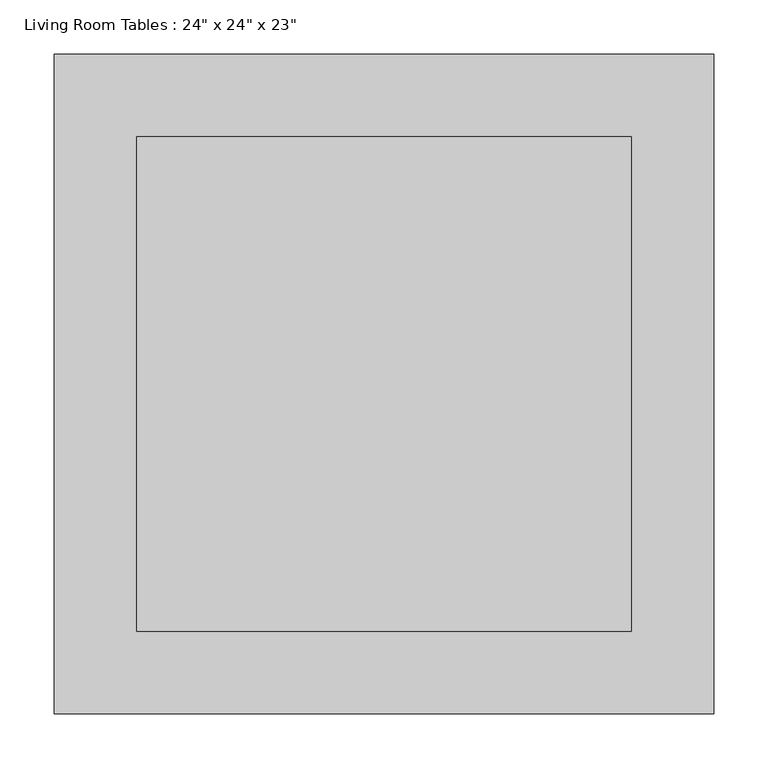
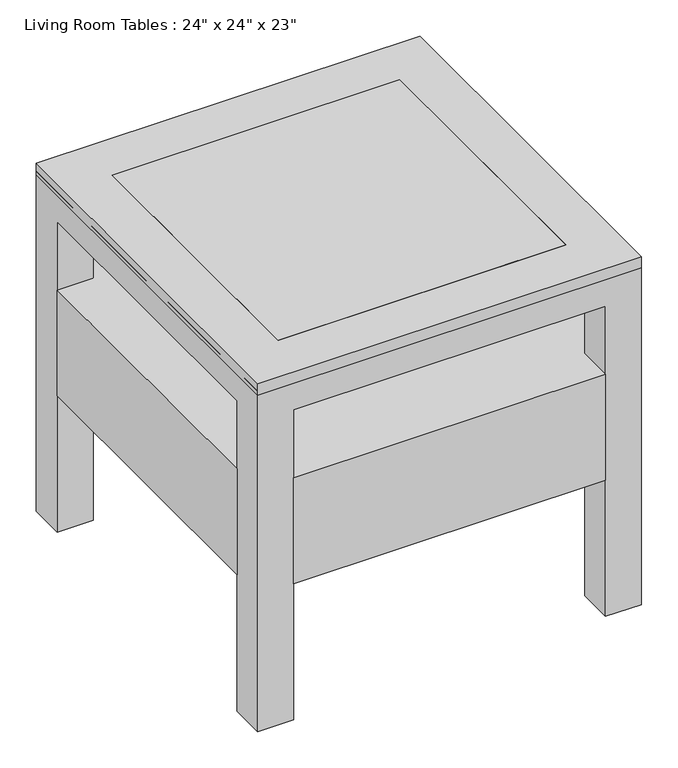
"""IFC4 building model written with IfcOpenShell, lengths in millimetres: furniture geometry."""

from ifc_helpers import new_model, si_unit, frame, origin, place, context, project, spatial, polyline, outline, extrude, faceted_brep, source, transform, mapped, element, save


def furniture_79813b58(model_context):
    return source(origin(), model_context, "Body", "SolidModel", [
        extrude(outline(polyline([(265.9157667, 400.0110778), (265.9157667, 342.8610778), (323.0657667, 342.8610778), (323.0657667, -152.4389222), (265.9157667, -152.4389222), (265.9157667, -209.5889222), (-229.3842333, -209.5889222), (-229.3842333, -152.4389222), (-286.5342333, -152.4389222), (-286.5342333, 342.8610778), (-229.3842333, 342.8610778), (-229.3842333, 400.0110778), (265.9157667, 400.0110778)])), frame((0.0, 0.0, 228.6), z_axis=(0.0, 0.0, 1.0), x_axis=(1.0, 0.0, 0.0)), (0.0, 0.0, 1.0), 177.8),
        extrude(outline(polyline([(246.8657667, 323.8110778), (246.8657667, -133.3889222), (-210.3342333, -133.3889222), (-210.3342333, 323.8110778), (246.8657667, 323.8110778)])), frame((0.0, 0.0, 571.5), z_axis=(0.0, 0.0, 1.0), x_axis=(1.0, 0.0, 0.0)), (0.0, 0.0, 1.0), 12.7),
        extrude(outline(polyline([(323.0657667, 400.0110778), (323.0657667, -209.5889222), (-286.5342333, -209.5889222), (-286.5342333, 400.0110778), (323.0657667, 400.0110778)]), holes=[polyline([(246.8657667, 323.8110778), (-210.3342333, 323.8110778), (-210.3342333, -133.3889222), (246.8657667, -133.3889222), (246.8657667, 323.8110778)])]), frame((0.0, 0.0, 565.15), z_axis=(0.0, 0.0, 1.0), x_axis=(1.0, 0.0, 0.0)), (0.0, 0.0, 1.0), 19.05),
        faceted_brep([(-286.5342333, 400.0110778, 571.5), (-286.5342333, -209.5889222, 571.5), (323.0657667, -209.5889222, 571.5), (323.0657667, 400.0110778, 571.5), (-273.8342333, 342.8610778, 571.5), (-229.3842333, 342.8610778, 571.5), (-229.3842333, 387.3110778, 571.5), (265.9157667, 387.3110778, 571.5), (265.9157667, 342.8610778, 571.5), (310.3657667, 342.8610778, 571.5), (310.3657667, -152.4389222, 571.5), (265.9157667, -152.4389222, 571.5), (265.9157667, -196.8889222, 571.5), (-229.3842333, -196.8889222, 571.5), (-229.3842333, -152.4389222, 571.5), (-273.8342333, -152.4389222, 571.5), (-286.5342333, -152.4389222, 520.7), (-286.5342333, 342.8610778, 520.7), (-273.8342333, 342.8610778, 520.7), (-273.8342333, -152.4389222, 520.7), (-229.3842333, -209.5889222, 520.7), (-229.3842333, -196.8889222, 520.7), (265.9157667, -196.8889222, 520.7), (265.9157667, -209.5889222, 520.7), (-229.3842333, 387.3110778, 520.7), (-229.3842333, 400.0110778, 520.7), (265.9157667, 400.0110778, 520.7), (265.9157667, 387.3110778, 520.7), (323.0657667, 342.8610778, 520.7), (323.0657667, -152.4389222, 520.7), (310.3657667, -152.4389222, 520.7), (310.3657667, 342.8610778, 520.7), (323.0657667, 400.0110778, 0.0), (265.9157667, 400.0110778, 0.0), (-229.3842333, 400.0110778, 0.0), (-286.5342333, 400.0110778, 0.0), (-286.5342333, 342.8610778, 0.0), (-286.5342333, -152.4389222, 0.0), (-286.5342333, -209.5889222, 0.0), (-229.3842333, -209.5889222, 0.0), (265.9157667, -209.5889222, 0.0), (323.0657667, -209.5889222, 0.0), (323.0657667, -152.4389222, 0.0), (323.0657667, 342.8610778, 0.0), (-229.3842333, 342.8610778, 0.0), (-229.3842333, -152.4389222, 0.0), (265.9157667, 342.8610778, 0.0), (265.9157667, -152.4389222, 0.0)], [[[0, 1, 2, 3], [4, 5, 6, 7, 8, 9, 10, 11, 12, 13, 14, 15]], [[16, 17, 18, 19]], [[20, 21, 22, 23]], [[24, 25, 26, 27]], [[28, 29, 30, 31]], [[0, 3, 32, 33, 26, 25, 34, 35]], [[35, 36, 17, 16, 37, 38, 1, 0]], [[2, 1, 38, 39, 20, 23, 40, 41]], [[32, 3, 2, 41, 42, 29, 28, 43]], [[4, 15, 19, 18]], [[6, 24, 27, 7]], [[10, 9, 31, 30]], [[21, 13, 12, 22]], [[5, 44, 34, 25, 24, 6]], [[39, 45, 14, 13, 21, 20]], [[36, 35, 34, 44]], [[44, 5, 4, 18, 17, 36]], [[14, 45, 37, 16, 19, 15]], [[38, 37, 45, 39]], [[33, 46, 8, 7, 27, 26]], [[11, 47, 40, 23, 22, 12]], [[46, 33, 32, 43]], [[8, 46, 43, 28, 31, 9]], [[47, 11, 10, 30, 29, 42]], [[40, 47, 42, 41]]]),
    ])


if __name__ == "__main__":
    model = new_model("IFC4")
    model_context = context("Model", 3, world=origin())
    ifc_project = project(units=[si_unit("LENGTHUNIT", "METRE", prefix="MILLI")], contexts=[model_context])
    site = spatial("IfcSite", under=ifc_project)
    building = spatial("IfcBuilding", under=site)
    placement = place(None, origin())
    furniture_shape = furniture_79813b58(model_context)
    element("IfcFurniture", 1, ObjectType="Living Room Tables : 24\" x 24\" x 23\"", at=placement, inside=building, context=model_context, shape_type="MappedRepresentation", body=[
        mapped(furniture_shape, transform((0.0, 0.0, 0.0), x_axis=(1.0, 0.0, 0.0), y_axis=(0.0, 1.0, 0.0), z_axis=(0.0, 0.0, 1.0))),
    ])
    save(model, "model.ifc")
